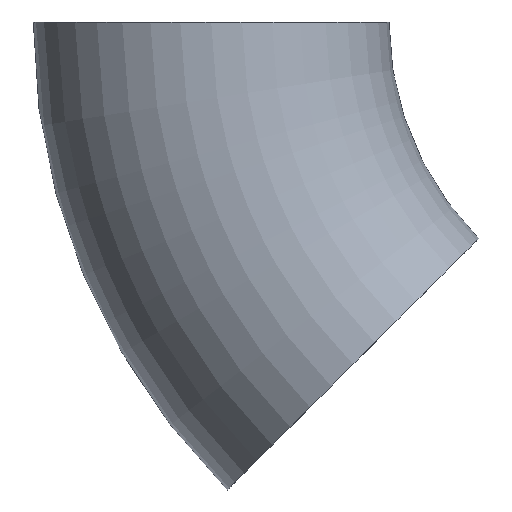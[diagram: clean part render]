
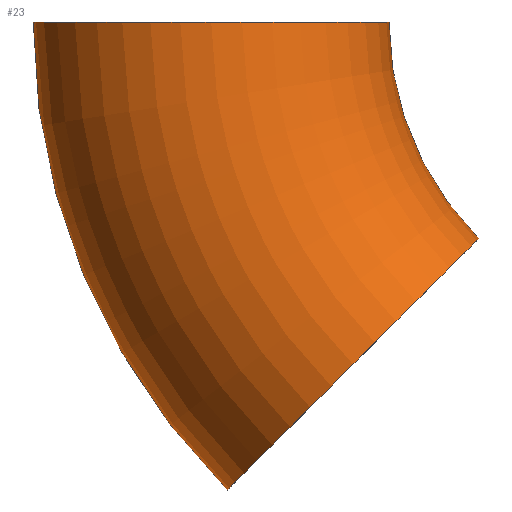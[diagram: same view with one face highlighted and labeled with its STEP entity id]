
A CAD part, front view. The second image highlights one B-rep face of the part: STEP entity #23.
In plain terms, the highlighted toroidal (fillet/blend) face has major radius 229 mm and minor radius 84.15 mm.
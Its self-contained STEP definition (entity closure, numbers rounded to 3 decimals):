
#5 = CARTESIAN_POINT ( 'NONE',  ( -313.15, 0., 0. ) ) ;
#7 = EDGE_CURVE ( 'NONE', #229, #193, #159, .T. ) ;
#11 = AXIS2_PLACEMENT_3D ( 'NONE', #53, #15, #208 ) ;
#15 = DIRECTION ( 'NONE',  ( -0.707, 0., 0.707 ) ) ;
#17 = ORIENTED_EDGE ( 'NONE', *, *, #7, .F. ) ;
#20 = EDGE_CURVE ( 'NONE', #183, #170, #119, .T. ) ;
#23 = ADVANCED_FACE ( 'NONE', ( #231 ), #151, .T. ) ;
#31 = CARTESIAN_POINT ( 'NONE',  ( 0., 0., 0. ) ) ;
#38 = AXIS2_PLACEMENT_3D ( 'NONE', #165, #127, #249 ) ;
#43 = AXIS2_PLACEMENT_3D ( 'NONE', #31, #252, #228 ) ;
#50 = EDGE_CURVE ( 'NONE', #170, #193, #74, .T. ) ;
#52 = CARTESIAN_POINT ( 'NONE',  ( 0., 0., 0. ) ) ;
#53 = CARTESIAN_POINT ( 'NONE',  ( -161.927, 0., -161.927 ) ) ;
#69 = ORIENTED_EDGE ( 'NONE', *, *, #114, .F. ) ;
#74 = CIRCLE ( 'NONE', #43, 144.85 ) ;
#85 = AXIS2_PLACEMENT_3D ( 'NONE', #87, #210, #251 ) ;
#87 = CARTESIAN_POINT ( 'NONE',  ( -229., 0., 0. ) ) ;
#108 = EDGE_LOOP ( 'NONE', ( #69, #140, #130, #17 ) ) ;
#111 = CARTESIAN_POINT ( 'NONE',  ( -102.424, 0., -102.424 ) ) ;
#114 = EDGE_CURVE ( 'NONE', #183, #229, #145, .T. ) ;
#119 = CIRCLE ( 'NONE', #11, 84.15 ) ;
#127 = DIRECTION ( 'NONE',  ( 0., 1., 0. ) ) ;
#128 = DIRECTION ( 'NONE',  ( 0., 1., 0. ) ) ;
#130 = ORIENTED_EDGE ( 'NONE', *, *, #50, .T. ) ;
#131 = CARTESIAN_POINT ( 'NONE',  ( -221.43, 0., -221.43 ) ) ;
#140 = ORIENTED_EDGE ( 'NONE', *, *, #20, .T. ) ;
#145 = CIRCLE ( 'NONE', #38, 313.15 ) ;
#151 = TOROIDAL_SURFACE ( 'NONE', #192, 229., 84.15 ) ;
#159 = CIRCLE ( 'NONE', #85, 84.15 ) ;
#165 = CARTESIAN_POINT ( 'NONE',  ( 0., 0., 0. ) ) ;
#170 = VERTEX_POINT ( 'NONE', #111 ) ;
#173 = CARTESIAN_POINT ( 'NONE',  ( -144.85, 0., 0. ) ) ;
#183 = VERTEX_POINT ( 'NONE', #131 ) ;
#192 = AXIS2_PLACEMENT_3D ( 'NONE', #52, #128, #211 ) ;
#193 = VERTEX_POINT ( 'NONE', #173 ) ;
#208 = DIRECTION ( 'NONE',  ( 0.707, 0., 0.707 ) ) ;
#210 = DIRECTION ( 'NONE',  ( 0., 0., 1. ) ) ;
#211 = DIRECTION ( 'NONE',  ( 0., 0., 1. ) ) ;
#228 = DIRECTION ( 'NONE',  ( 0., 0., 1. ) ) ;
#229 = VERTEX_POINT ( 'NONE', #5 ) ;
#231 = FACE_OUTER_BOUND ( 'NONE', #108, .T. ) ;
#249 = DIRECTION ( 'NONE',  ( 0., 0., 1. ) ) ;
#251 = DIRECTION ( 'NONE',  ( 1., 0., 0. ) ) ;
#252 = DIRECTION ( 'NONE',  ( 0., 1., 0. ) ) ;
